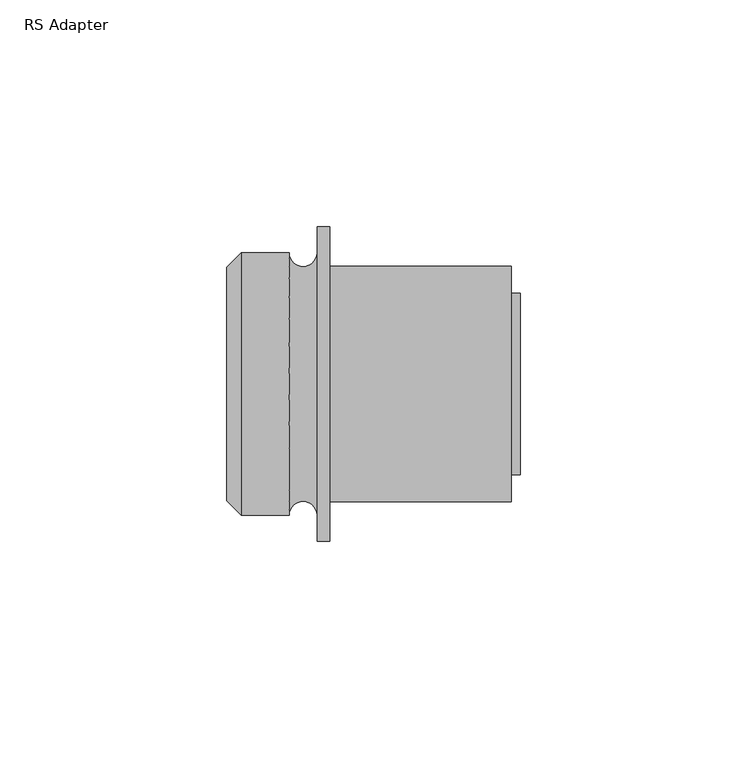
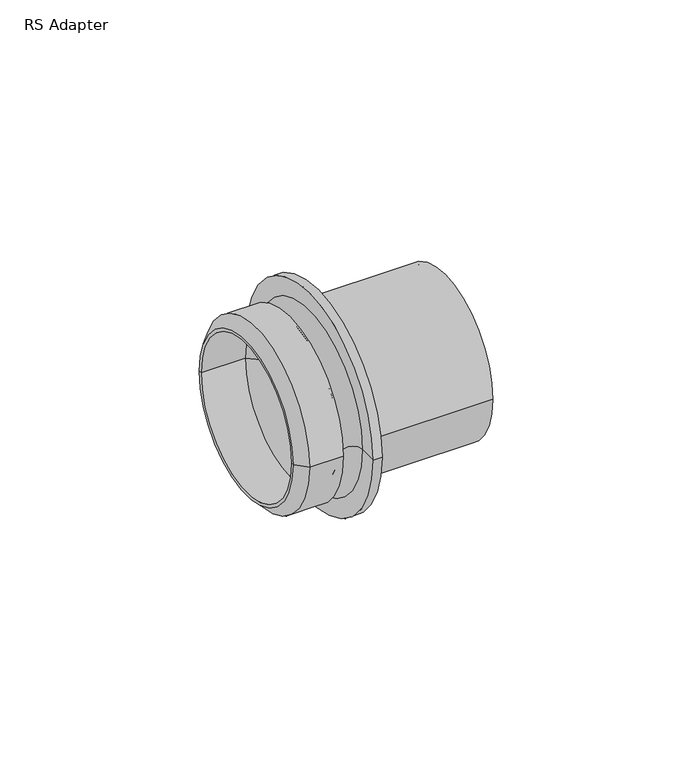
"""IFC4 building model written with IfcOpenShell, lengths in millimetres: pipe fitting geometry, RS Adapter : Superpipe RS Press Adapter."""

from ifc_helpers import new_model, si_unit, point, frame, origin, place, context, project, spatial, polyline, circle_curve, ellipse_curve, trimmed, source, transform, mapped, element, save
from ifc_brep_helpers import plane_surface, cylinder_surface, revolved_surface, advanced_brep


def rs_adapter_fc67200b(model_context):
    return source(origin(), model_context, "Body", "AdvancedBrep", [
        advanced_brep(
        [(62.8, -26.0, 0.0), (62.8, 26.0, 0.0), (62.8, 25.0, 0.0), (62.8, -25.0, 0.0), (22.8, 25.0, 0.0), (22.8, -25.0, 0.0), (22.8, 26.0, 0.0), (22.8, -26.0, 0.0)],
        [
            (0, 1, circle_curve(frame((62.8, 0.0, 0.0), z_axis=(1.0, 0.0, 0.0), x_axis=(0.0, 1.0, 0.0)), 26.0)),
            (1, 2),
            (2, 3, circle_curve(frame((62.8, 0.0, 0.0), z_axis=(-1.0, 0.0, 0.0), x_axis=(0.0, 1.0, 0.0)), 25.0)),
            (3, 0),
            (2, 4),
            (4, 5, circle_curve(frame((22.8, 0.0, 0.0), z_axis=(-1.0, 0.0, 0.0), x_axis=(0.0, 1.0, 0.0)), 25.0)),
            (5, 3),
            (4, 6),
            (6, 7, circle_curve(frame((22.8, 0.0, 0.0), z_axis=(-1.0, 0.0, 0.0), x_axis=(0.0, 1.0, 0.0)), 26.0)),
            (7, 5),
            (6, 1),
            (0, 7),
            (6, 7, circle_curve(frame((22.8, 0.0, 0.0), z_axis=(1.0, 0.0, 0.0), x_axis=(0.0, 1.0, 0.0)), 26.0)),
            (0, 1, circle_curve(frame((62.8, 0.0, 0.0), z_axis=(-1.0, 0.0, 0.0), x_axis=(0.0, 1.0, 0.0)), 26.0)),
            (4, 5, circle_curve(frame((22.8, 0.0, 0.0), z_axis=(1.0, 0.0, 0.0), x_axis=(0.0, 1.0, 0.0)), 25.0)),
            (2, 3, circle_curve(frame((62.8, 0.0, 0.0), z_axis=(1.0, 0.0, 0.0), x_axis=(0.0, 1.0, 0.0)), 25.0)),
        ],
        [
            plane_surface(frame((62.8, 0.0, 0.0), z_axis=(1.0, 0.0, 0.0), x_axis=(0.0, 1.0, 0.0))),
            revolved_surface(polyline([(22.799999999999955, 25.0, 0.0), (62.799999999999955, 25.0, 0.0)]), (2000.0, 0.0, 0.0), (-1.0, 0.0, 0.0)),
            plane_surface(frame((22.8, 0.0, 0.0), z_axis=(-1.0, 0.0, 0.0), x_axis=(0.0, 1.0, 0.0))),
            cylinder_surface(frame((2000.0, 0.0, 0.0), z_axis=(-1.0, 0.0, 0.0), x_axis=(0.0, 1.0, 0.0)), 26.0),
        ],
        [
            (0, [[1, 2, 3, 4]]),
            (1, [[-3, 5, 6, 7]]),
            (2, [[-6, 8, 9, 10]]),
            (3, [[-9, 11, -1, 12]]),
            (3, [[13, -12, 14, -11]]),
            (2, [[15, -10, -13, -8]]),
            (1, [[16, -7, -15, -5]]),
            (0, [[-14, -4, -16, -2]]),
        ],
    ),
        advanced_brep(
        [(64.8, -20.0, 0.0), (64.8, 20.0, 0.0), (64.8, 17.5, 0.0), (64.8, -17.5, 0.0), (22.8, 17.5, 0.0), (22.8, -17.5, 0.0), (22.8, 20.0, 0.0), (22.8, -20.0, 0.0)],
        [
            (0, 1, circle_curve(frame((64.8, 0.0, 0.0), z_axis=(1.0, 0.0, 0.0), x_axis=(0.0, 1.0, 0.0)), 20.0)),
            (1, 2),
            (2, 3, circle_curve(frame((64.8, 0.0, 0.0), z_axis=(-1.0, 0.0, 0.0), x_axis=(0.0, 1.0, 0.0)), 17.5)),
            (3, 0),
            (2, 4),
            (4, 5, circle_curve(frame((22.8, 0.0, 0.0), z_axis=(-1.0, 0.0, 0.0), x_axis=(0.0, 1.0, 0.0)), 17.5)),
            (5, 3),
            (4, 6),
            (6, 7, circle_curve(frame((22.8, 0.0, 0.0), z_axis=(-1.0, 0.0, 0.0), x_axis=(0.0, 1.0, 0.0)), 20.0)),
            (7, 5),
            (6, 1),
            (0, 7),
            (6, 7, circle_curve(frame((22.8, 0.0, 0.0), z_axis=(1.0, 0.0, 0.0), x_axis=(0.0, 1.0, 0.0)), 20.0)),
            (0, 1, circle_curve(frame((64.8, 0.0, 0.0), z_axis=(-1.0, 0.0, 0.0), x_axis=(0.0, 1.0, 0.0)), 20.0)),
            (4, 5, circle_curve(frame((22.8, 0.0, 0.0), z_axis=(1.0, 0.0, 0.0), x_axis=(0.0, 1.0, 0.0)), 17.5)),
            (2, 3, circle_curve(frame((64.8, 0.0, 0.0), z_axis=(1.0, 0.0, 0.0), x_axis=(0.0, 1.0, 0.0)), 17.5)),
        ],
        [
            plane_surface(frame((64.8, 0.0, 0.0), z_axis=(1.0, 0.0, 0.0), x_axis=(0.0, 1.0, 0.0))),
            revolved_surface(polyline([(22.799999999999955, 17.5, 0.0), (64.79999999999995, 17.5, 0.0)]), (2000.0, 0.0, 0.0), (-1.0, 0.0, 0.0)),
            plane_surface(frame((22.8, 0.0, 0.0), z_axis=(-1.0, 0.0, 0.0), x_axis=(0.0, 1.0, 0.0))),
            cylinder_surface(frame((2000.0, 0.0, 0.0), z_axis=(-1.0, 0.0, 0.0), x_axis=(0.0, 1.0, 0.0)), 20.0),
        ],
        [
            (0, [[1, 2, 3, 4]]),
            (1, [[-3, 5, 6, 7]]),
            (2, [[-6, 8, 9, 10]]),
            (3, [[-9, 11, -1, 12]]),
            (3, [[13, -12, 14, -11]]),
            (2, [[15, -10, -13, -8]]),
            (1, [[16, -7, -15, -5]]),
            (0, [[-14, -4, -16, -2]]),
        ],
    ),
        advanced_brep(
        [(20.0, -34.75, 0.0), (20.0, 34.75, 0.0), (22.8, 34.75, 0.0), (22.8, -34.75, 0.0), (20.0, -29.0, 0.0), (20.0, 29.0, 0.0), (22.8, 17.5, 0.0), (22.8, -17.5, 0.0), (0.0, -25.8, 0.0), (0.0, 25.8, 0.0), (3.2, 29.0, 0.0), (3.2, -29.0, 0.0), (0.0, -24.8, 0.0), (0.0, 24.8, 0.0), (13.8, -29.0, 0.0), (13.8, 29.0, 0.0), (14.0, -24.8, 0.0), (14.0, 24.8, 0.0)],
        [
            (0, 1, circle_curve(frame((20.0, 0.0, 0.0), z_axis=(1.0, 0.0, 0.0), x_axis=(0.0, 1.0, 0.0)), 34.75)),
            (1, 2),
            (2, 3, circle_curve(frame((22.8, 0.0, 0.0), z_axis=(-1.0, 0.0, 0.0), x_axis=(0.0, 1.0, 0.0)), 34.75)),
            (3, 0),
            (1, 0, circle_curve(frame((20.0, 0.0, 0.0), z_axis=(1.0, 0.0, 0.0), x_axis=(0.0, 1.0, 0.0)), 34.75)),
            (3, 2, circle_curve(frame((22.8, 0.0, 0.0), z_axis=(-1.0, 0.0, 0.0), x_axis=(0.0, 1.0, 0.0)), 34.75)),
            (0, 4),
            (4, 5, circle_curve(frame((20.0, 0.0, 0.0), z_axis=(1.0, 0.0, 0.0), x_axis=(0.0, 1.0, 0.0)), 29.0)),
            (5, 1),
            (5, 4, circle_curve(frame((20.0, 0.0, 0.0), z_axis=(1.0, 0.0, 0.0), x_axis=(0.0, 1.0, 0.0)), 29.0)),
            (2, 6),
            (6, 7, circle_curve(frame((22.8, 0.0, 0.0), z_axis=(-1.0, 0.0, 0.0), x_axis=(0.0, 1.0, 0.0)), 17.5)),
            (7, 3),
            (7, 6, circle_curve(frame((22.8, 0.0, 0.0), z_axis=(-1.0, 0.0, 0.0), x_axis=(0.0, 1.0, 0.0)), 17.5)),
            (8, 9, circle_curve(frame((0.0, 0.0, 0.0), z_axis=(1.0, 0.0, 0.0), x_axis=(0.0, 1.0, 0.0)), 25.8)),
            (9, 10),
            (10, 11, circle_curve(frame((3.2, 0.0, 0.0), z_axis=(-1.0, 0.0, 0.0), x_axis=(0.0, 1.0, 0.0)), 29.0)),
            (11, 8),
            (9, 8, circle_curve(frame((0.0, 0.0, 0.0), z_axis=(1.0, 0.0, 0.0), x_axis=(0.0, 1.0, 0.0)), 25.8)),
            (11, 10, circle_curve(frame((3.2, 0.0, 0.0), z_axis=(-1.0, 0.0, 0.0), x_axis=(0.0, 1.0, 0.0)), 29.0)),
            (8, 12),
            (12, 13, circle_curve(frame((0.0, 0.0, 0.0), z_axis=(1.0, 0.0, 0.0), x_axis=(0.0, 1.0, 0.0)), 24.8)),
            (13, 9),
            (13, 12, circle_curve(frame((0.0, 0.0, 0.0), z_axis=(1.0, 0.0, 0.0), x_axis=(0.0, 1.0, 0.0)), 24.8)),
            (4, 14, circle_curve(frame((16.9, -29.0, 0.0), z_axis=(0.0, 0.0, 1.0), x_axis=(1.0, 0.0, 0.0)), 3.1)),
            (14, 15, circle_curve(frame((13.8, 0.0, 0.0), z_axis=(1.0, 0.0, 0.0), x_axis=(0.0, 1.0, 0.0)), 29.0)),
            (15, 5, circle_curve(frame((16.9, 29.0, 0.0), z_axis=(0.0, 0.0, 1.0), x_axis=(1.0, 0.0, 0.0)), 3.1)),
            (15, 14, circle_curve(frame((13.8, 0.0, 0.0), z_axis=(1.0, 0.0, 0.0), x_axis=(0.0, 1.0, 0.0)), 29.0)),
            (10, 15),
            (14, 11),
            (12, 16),
            (16, 17, circle_curve(frame((14.0, 0.0, 0.0), z_axis=(1.0, 0.0, 0.0), x_axis=(0.0, 1.0, 0.0)), 24.8)),
            (17, 13),
            (17, 16, circle_curve(frame((14.0, 0.0, 0.0), z_axis=(1.0, 0.0, 0.0), x_axis=(0.0, 1.0, 0.0)), 24.8)),
            (16, 7),
            (6, 17),
        ],
        [
            cylinder_surface(frame((1984.8, 0.0, 0.0), z_axis=(-1.0, 0.0, 0.0), x_axis=(0.0, 1.0, 0.0)), 34.75),
            plane_surface(frame((20.0, 0.0, 0.0), z_axis=(-1.0, 0.0, 0.0), x_axis=(0.0, 1.0, 0.0))),
            plane_surface(frame((22.8, 0.0, 0.0), z_axis=(1.0, 0.0, 0.0), x_axis=(0.0, 1.0, 0.0))),
            revolved_surface(polyline([(3.2, 29.0, 0.0), (0.0, 25.8, 0.0)]), (1984.8, 0.0, 0.0), (-1.0, 0.0, 0.0)),
            plane_surface(frame((0.0, 0.0, 0.0), z_axis=(-1.0, 0.0, 0.0), x_axis=(0.0, 1.0, 0.0))),
            revolved_surface(trimmed(ellipse_curve(frame((16.9, 29.0, 0.0), z_axis=(0.0, 0.0, -1.0), x_axis=(1.0, 0.0, 0.0)), 3.1, 3.1), [point((20.0, 29.0, 0.0))], [point((13.8, 29.0, 0.0))], True, "CARTESIAN"), (1984.8, 0.0, 0.0), (-1.0, 0.0, 0.0)),
            cylinder_surface(frame((1984.8, 0.0, 0.0), z_axis=(-1.0, 0.0, 0.0), x_axis=(0.0, 1.0, 0.0)), 29.0),
            revolved_surface(polyline([(0.0, 24.8, 0.0), (14.0, 24.8, 0.0)]), (2011.0, 0.0, 0.0), (-1.0, 0.0, 0.0)),
            revolved_surface(polyline([(14.0, 24.8, 0.0), (22.8, 17.5, 0.0)]), (2011.0, 0.0, 0.0), (-1.0, 0.0, 0.0)),
        ],
        [
            (0, [[1, 2, 3, 4]]),
            (0, [[-2, 5, -4, 6]]),
            (1, [[-1, 7, 8, 9]]),
            (1, [[-5, -9, 10, -7]]),
            (2, [[-3, 11, 12, 13]]),
            (2, [[-6, -13, 14, -11]]),
            (3, [[15, 16, 17, 18]]),
            (3, [[-16, 19, -18, 20]]),
            (4, [[-15, 21, 22, 23]]),
            (4, [[-19, -23, 24, -21]]),
            (5, [[-8, 25, 26, 27]]),
            (5, [[-10, -27, 28, -25]]),
            (6, [[-17, 29, -26, 30]]),
            (6, [[-20, -30, -28, -29]]),
            (7, [[31, 32, 33, -22]]),
            (7, [[-31, -24, -33, 34]]),
            (8, [[-32, 35, -12, 36]]),
            (8, [[-34, -36, -14, -35]]),
        ],
    ),
    ])


if __name__ == "__main__":
    model = new_model("IFC4")
    model_context = context("Model", 3, world=origin())
    ifc_project = project(units=[si_unit("LENGTHUNIT", "METRE", prefix="MILLI")], contexts=[model_context])
    site = spatial("IfcSite", under=ifc_project)
    building = spatial("IfcBuilding", under=site)
    placement = place(None, origin())
    rs_adapter_shape = rs_adapter_fc67200b(model_context)
    element("IfcPipeFitting", 1, ObjectType="RS Adapter : Superpipe RS Press Adapter", at=placement, inside=building, context=model_context, shape_type="MappedRepresentation", body=[
        mapped(rs_adapter_shape, transform((0.0, 0.0, 0.0), x_axis=(1.0, 0.0, 0.0), y_axis=(0.0, 1.0, 0.0), z_axis=(0.0, 0.0, 1.0))),
    ])
    save(model, "model.ifc")
